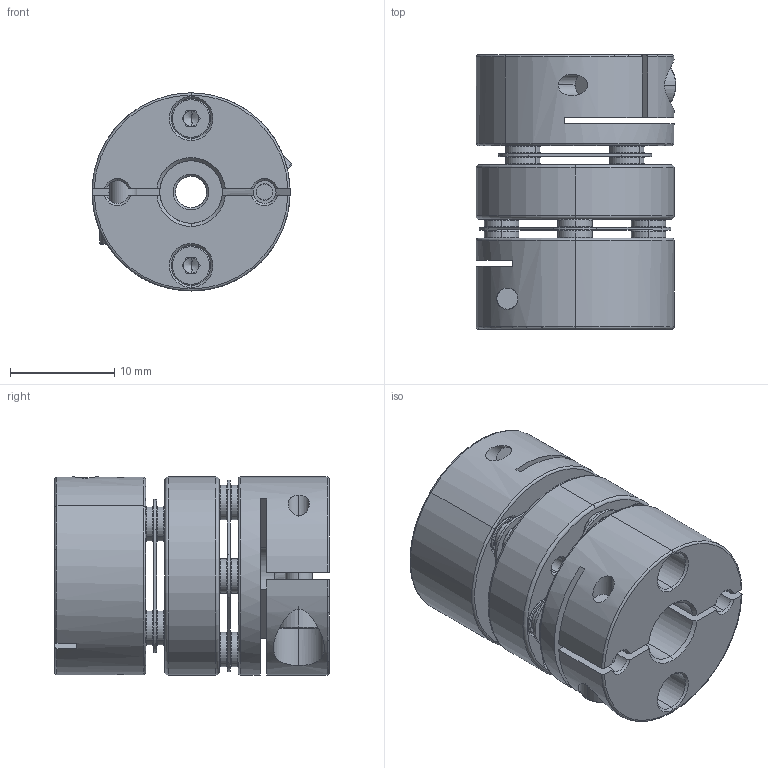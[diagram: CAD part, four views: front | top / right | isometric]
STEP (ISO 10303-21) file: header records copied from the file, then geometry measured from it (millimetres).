
FILE_DESCRIPTION (( 'STEP AP203' ), '1' );
FILE_NAME ('SDWB-19C-3X6_203.STEP', '2013-01-07T04:30:56', ( '' ), ( '' ), 'SwSTEP 2.0', 'SolidWorks 2012', '' );
FILE_SCHEMA (( 'CONFIG_CONTROL_DESIGN' ));
Length unit declared in the file: millimetre
Products named in the file (1): SDWB-19C-3X6_203
Bounding box: 19.18 x 26.3 x 19 mm (x, y, z)
Volume: 5071.2 mm3; surface area: 5535.1 mm2
Topology: 1 solids, 33 shells, 773 faces, 1794 edges, 1071 vertices
Faces by surface type: cylinder 239, plane 228, cone 168, torus 138
Entity records: 22450 total; most frequent: DIRECTION 4237, CARTESIAN_POINT 4101, ORIENTED_EDGE 3548, EDGE_CURVE 1774, AXIS2_PLACEMENT_3D 1749, VERTEX_POINT 1071, CIRCLE 975, EDGE_LOOP 883
